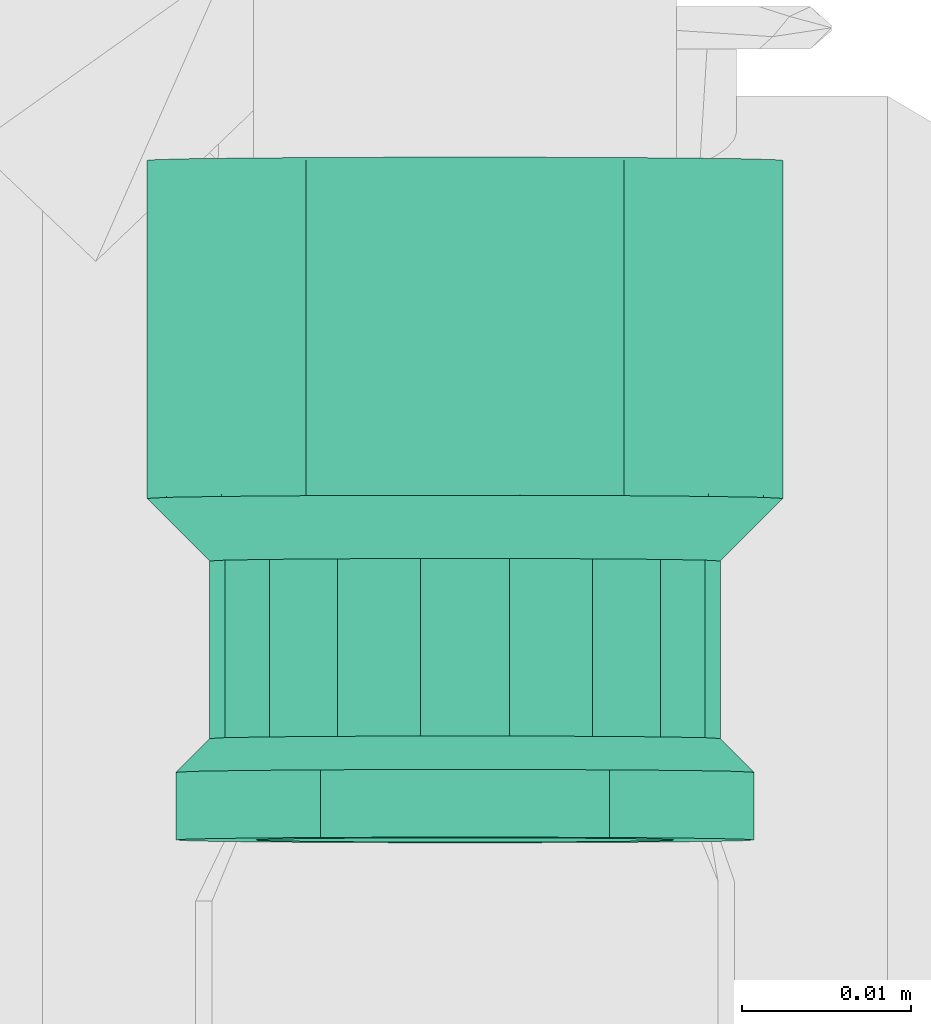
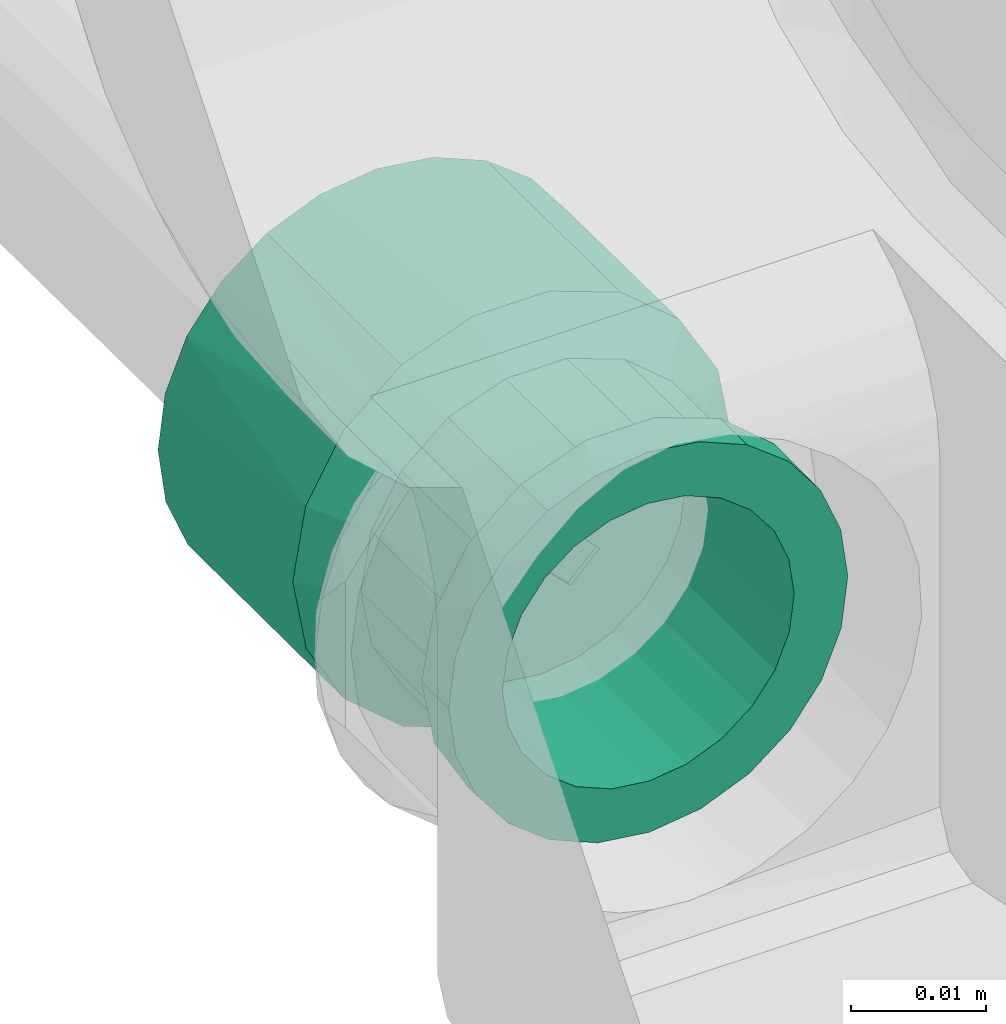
# One storey, part 384 of 589: 1 flow fitting.
"""IFC2X3 building model written with IfcOpenShell, lengths in millimetres."""

from ifc_helpers import new_model, entity, si_unit, converted_unit, derived_unit, direction, frame, origin, place, context, subcontext, project, spatial, faceted_brep, source, transform, mapped, material, type_object, type_shapes, element, save


model = new_model("IFC2X3")

# Units and contexts
model_context = context("Model", 3, precision=0.01, world=origin(), true_north=direction((6.123031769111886e-17, 1.0)))
body_context = subcontext(model_context, "Body", "Model", "MODEL_VIEW")
ifc_project = project(units=[si_unit("LENGTHUNIT", "METRE", prefix="MILLI"), si_unit("AREAUNIT", "SQUARE_METRE"), si_unit("VOLUMEUNIT", "CUBIC_METRE"), converted_unit("PLANEANGLEUNIT", "DEGREE", entity("IfcRatioMeasure", 0.017453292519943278), si_unit("PLANEANGLEUNIT", "RADIAN"), dimensions=[0, 0, 0, 0, 0, 0, 0]), si_unit("MASSUNIT", "GRAM", prefix="KILO"), derived_unit("MASSDENSITYUNIT", [(si_unit("MASSUNIT", "GRAM", prefix="KILO"), 1), (si_unit("LENGTHUNIT", "METRE"), -3)]), derived_unit("IONCONCENTRATIONUNIT", [(si_unit("MASSUNIT", "GRAM", prefix="KILO"), 1), (si_unit("LENGTHUNIT", "METRE"), -3)]), derived_unit("MOMENTOFINERTIAUNIT", [(si_unit("LENGTHUNIT", "METRE"), 4)]), si_unit("TIMEUNIT", "SECOND"), si_unit("FREQUENCYUNIT", "HERTZ"), si_unit("THERMODYNAMICTEMPERATUREUNIT", "DEGREE_CELSIUS"), derived_unit("THERMALTRANSMITTANCEUNIT", [(si_unit("MASSUNIT", "GRAM", prefix="KILO"), 1), (si_unit("THERMODYNAMICTEMPERATUREUNIT", "KELVIN"), -1), (si_unit("TIMEUNIT", "SECOND"), -3)]), derived_unit("THERMALCONDUCTANCEUNIT", [(si_unit("MASSUNIT", "GRAM", prefix="KILO"), 1), (si_unit("THERMODYNAMICTEMPERATUREUNIT", "KELVIN"), -1), (si_unit("TIMEUNIT", "SECOND"), -3), (si_unit("LENGTHUNIT", "METRE"), 1)]), derived_unit("VOLUMETRICFLOWRATEUNIT", [(si_unit("LENGTHUNIT", "METRE"), 3), (si_unit("TIMEUNIT", "SECOND"), -1)]), derived_unit("MASSFLOWRATEUNIT", [(si_unit("MASSUNIT", "GRAM", prefix="KILO"), 1), (si_unit("TIMEUNIT", "SECOND"), -1)]), derived_unit("ROTATIONALFREQUENCYUNIT", [(si_unit("TIMEUNIT", "SECOND"), -1)]), si_unit("ELECTRICCURRENTUNIT", "AMPERE"), si_unit("ELECTRICVOLTAGEUNIT", "VOLT"), si_unit("POWERUNIT", "WATT"), si_unit("FORCEUNIT", "NEWTON", prefix="KILO"), si_unit("ILLUMINANCEUNIT", "LUX"), si_unit("LUMINOUSFLUXUNIT", "LUMEN"), si_unit("LUMINOUSINTENSITYUNIT", "CANDELA"), derived_unit("USERDEFINED", [(si_unit("MASSUNIT", "GRAM", prefix="KILO"), -1), (si_unit("LENGTHUNIT", "METRE"), -2), (si_unit("TIMEUNIT", "SECOND"), 3), (si_unit("LUMINOUSFLUXUNIT", "LUMEN"), 1)]), derived_unit("USERDEFINED", [(si_unit("MASSUNIT", "GRAM", prefix="KILO"), 1), (si_unit("TIMEUNIT", "SECOND"), -3), (si_unit("LENGTHUNIT", "METRE"), 3), (si_unit("ELECTRICCURRENTUNIT", "AMPERE"), -2)]), derived_unit("SOUNDPOWERUNIT", [(si_unit("MASSUNIT", "GRAM", prefix="KILO"), 1), (si_unit("TIMEUNIT", "SECOND"), -3), (si_unit("LENGTHUNIT", "METRE"), 2)]), derived_unit("SOUNDPRESSUREUNIT", [(si_unit("MASSUNIT", "GRAM", prefix="KILO"), 1), (si_unit("LENGTHUNIT", "METRE"), -1), (si_unit("TIMEUNIT", "SECOND"), -2)]), derived_unit("LINEARVELOCITYUNIT", [(si_unit("LENGTHUNIT", "METRE"), 1), (si_unit("TIMEUNIT", "SECOND"), -1)]), si_unit("PRESSUREUNIT", "PASCAL"), derived_unit("USERDEFINED", [(si_unit("MASSUNIT", "GRAM", prefix="KILO"), 1), (si_unit("LENGTHUNIT", "METRE"), -2), (si_unit("TIMEUNIT", "SECOND"), -2)]), derived_unit("LINEARFORCEUNIT", [(si_unit("MASSUNIT", "GRAM", prefix="KILO"), 1), (si_unit("TIMEUNIT", "SECOND"), -2)]), derived_unit("PLANARFORCEUNIT", [(si_unit("MASSUNIT", "GRAM", prefix="KILO"), 1), (si_unit("LENGTHUNIT", "METRE"), -1), (si_unit("TIMEUNIT", "SECOND"), -2)]), derived_unit("SPECIFICHEATCAPACITYUNIT", [(si_unit("THERMODYNAMICTEMPERATUREUNIT", "KELVIN"), -1), (si_unit("LENGTHUNIT", "METRE"), 2), (si_unit("TIMEUNIT", "SECOND"), -2)]), derived_unit("HEATINGVALUEUNIT", [(si_unit("LENGTHUNIT", "METRE"), 2), (si_unit("TIMEUNIT", "SECOND"), -2)]), derived_unit("VAPORPERMEABILITYUNIT", [(si_unit("LENGTHUNIT", "METRE"), -1), (si_unit("TIMEUNIT", "SECOND"), 1)]), derived_unit("DYNAMICVISCOSITYUNIT", [(si_unit("MASSUNIT", "GRAM", prefix="KILO"), 1), (si_unit("TIMEUNIT", "SECOND"), -1), (si_unit("LENGTHUNIT", "METRE"), -1)]), derived_unit("THERMALEXPANSIONCOEFFICIENTUNIT", [(si_unit("THERMODYNAMICTEMPERATUREUNIT", "KELVIN"), -1)]), derived_unit("MODULUSOFELASTICITYUNIT", [(si_unit("MASSUNIT", "GRAM", prefix="KILO"), 1), (si_unit("LENGTHUNIT", "METRE"), -1), (si_unit("TIMEUNIT", "SECOND"), -2)]), derived_unit("ISOTHERMALMOISTURECAPACITYUNIT", [(si_unit("LENGTHUNIT", "METRE"), 3), (si_unit("MASSUNIT", "GRAM", prefix="KILO"), -1)]), derived_unit("MOISTUREDIFFUSIVITYUNIT", [(si_unit("TIMEUNIT", "SECOND"), -1), (si_unit("LENGTHUNIT", "METRE"), 2)])], contexts=[model_context])

# Site, building, storey
site_placement = place(None, origin())
site = spatial("IfcSite", under=ifc_project, at=site_placement, Name="Default", CompositionType="ELEMENT")
building_placement = place(site_placement, origin())
building = spatial("IfcBuilding", under=site, at=building_placement, CompositionType="ELEMENT")
storey_placement = place(building_placement, frame((0.0, 0.0, 100.0)))
storey = spatial("IfcBuildingStorey", under=building, at=storey_placement, Name="TÉRREO", CompositionType="ELEMENT", Elevation=100.0)

# Flow fitting
ifc_material = material(Name="PVC Azul")
pipe_fitting_type = type_object("IfcPipeFittingType", Name="Luva Soldavel com Bucha de Latao - Fortlev - AleBim:Standard", PredefinedType="NOTDEFINED", material=ifc_material)
shared_shape = source(origin(), body_context, "Body", "Brep", [
    faceted_brep([(0.0, -9.400000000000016, -16.28127759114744), (0.0, -13.2936074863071, -13.293607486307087), (0.0, -6.249999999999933, -10.825317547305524), (0.0, -3.235238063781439, -12.074072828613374), (0.0, -4.865798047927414, -18.15940553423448), (0.0, -8.838834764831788, -8.838834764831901), (0.0, -16.281277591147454, -9.399999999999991), (0.0, -10.82531754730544, -6.250000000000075), (0.0, -12.074072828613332, -3.2352380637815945), (0.0, -18.159405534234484, -4.865798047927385), (0.0, -12.5, 0.0), (0.0, -18.8, 0.0), (0.0, -12.074072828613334, 3.2352380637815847), (0.0, -18.159405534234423, 4.8657980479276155), (0.0, -10.825317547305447, 6.250000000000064), (0.0, -16.281277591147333, 9.400000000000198), (0.0, -8.838834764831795, 8.838834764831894), (0.0, -13.293607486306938, 13.29360748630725), (0.0, -6.249999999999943, 10.825317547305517), (0.0, -9.399999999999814, 16.281277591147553), (0.0, -3.23523806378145, 12.07407282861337), (0.0, -4.865798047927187, 18.159405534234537), (0.0, 0.0, 12.5), (0.0, 0.0, 18.8), (0.0, 3.2352380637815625, 12.074072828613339), (0.0, 4.865798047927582, 18.159405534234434), (0.0, 6.2500000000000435, 10.825317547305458), (0.0, 9.400000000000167, 16.28127759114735), (0.0, 8.838834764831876, 8.838834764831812), (0.0, 13.29360748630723, 13.293607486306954), (0.0, 10.825317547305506, 6.249999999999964), (0.0, 16.281277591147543, 9.399999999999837), (0.0, 18.159405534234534, 4.865798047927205), (0.0, 12.074072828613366, 3.2352380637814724), (0.0, 18.8, 0.0), (0.0, 12.5, 0.0), (0.0, 18.15940553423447, -4.865798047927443), (0.0, 12.074072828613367, -3.2352380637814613), (0.0, 16.281277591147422, -9.400000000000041), (0.0, 10.825317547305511, -6.249999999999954), (0.0, 13.293607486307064, -13.293607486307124), (0.0, 8.838834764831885, -8.838834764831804), (0.0, 9.399999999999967, -16.281277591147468), (0.0, 6.250000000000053, -10.825317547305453), (0.0, 4.86579804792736, -18.159405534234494), (0.0, 3.2352380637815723, -12.074072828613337), (0.0, 0.0, -18.8), (0.0, 0.0, -12.5), (20.0, 17.66604204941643, 6.4304710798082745), (20.0, 18.233021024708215, 3.2152355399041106), (20.0, 11.899800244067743, 14.183636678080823), (20.0, 14.400961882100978, 12.08520983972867), (20.0, 16.033501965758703, 9.257840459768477), (20.0, 6.330580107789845, 17.39840655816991), (20.0, 3.2625216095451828, 18.514749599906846), (20.0, 18.8, 0.0), (20.0, 9.398638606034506, 16.282063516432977), (20.0, -17.667654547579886, 6.4260394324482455), (20.0, -9.402722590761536, 16.279705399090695), (20.0, -6.334944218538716, 17.39681801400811), (20.0, -3.267165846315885, 18.513930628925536), (20.0, -14.403992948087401, 12.081597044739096), (20.0, -11.903357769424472, 14.180651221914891), (20.0, -18.8, 0.0), (20.0, -16.03582374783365, 9.253818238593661), (20.0, -0.0023221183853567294, 18.514340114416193), (20.0, -17.66765454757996, -6.426039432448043), (20.0, -11.903357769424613, -14.180651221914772), (20.0, -14.403992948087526, -12.081597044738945), (20.0, -16.035823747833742, -9.253818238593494), (20.0, -6.334944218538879, -17.39681801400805), (20.0, -3.2671658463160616, -18.513930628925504), (20.0, 18.233021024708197, -3.2152355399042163), (20.0, -9.402722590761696, -16.2797053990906), (20.0, 6.330580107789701, -17.398406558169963), (20.0, 3.2625216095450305, -18.514749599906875), (20.0, 9.398638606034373, -16.282063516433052), (20.0, 11.899800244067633, -14.183636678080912), (20.0, 17.66604204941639, -6.43047107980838), (20.0, 16.033501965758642, -9.257840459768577), (20.0, 14.400961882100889, -12.085209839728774), (20.0, -0.0023221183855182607, -18.51434011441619), (23.69999999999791, 14.19050976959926, 5.16134018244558), (23.699999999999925, 15.09999999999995, 0.0), (23.699999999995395, 5.088173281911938, 13.97297617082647), (23.699999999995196, 2.6241598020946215, 14.870231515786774), (23.699999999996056, 9.560675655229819, 11.38977837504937), (23.699999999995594, 7.552186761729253, 13.075720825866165), (23.699999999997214, 12.879837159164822, 7.432588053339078), (23.699999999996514, 11.569164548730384, 9.703835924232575), (23.699999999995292, 0.0018651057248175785, 14.870560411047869), (23.69999999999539, -2.620429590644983, 14.870889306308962), (23.699999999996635, -9.557818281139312, 11.392176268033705), (23.699999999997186, -11.566730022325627, 9.706737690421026), (23.699999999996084, -7.548906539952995, 13.077614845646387), (23.699999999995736, -5.084668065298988, 13.974252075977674), (23.699999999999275, -14.644607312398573, 2.582449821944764), (23.699999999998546, -14.189214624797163, 5.164899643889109), (23.700000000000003, -15.099999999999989, 0.0), (23.699999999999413, -14.732236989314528, 2.085517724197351), (23.699999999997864, -12.877972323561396, 7.4358186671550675), (23.699999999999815, -14.644607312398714, -2.582449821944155), (23.699999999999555, -14.18921462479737, -5.164899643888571), (23.699999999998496, -5.084668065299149, -13.97425207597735), (23.699999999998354, -2.620429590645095, -14.87088930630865), (23.69999999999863, -7.548906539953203, -13.077614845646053), (23.69999999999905, -11.566730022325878, -9.706737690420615), (23.69999999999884, -9.557818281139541, -11.392176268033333), (23.6999999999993, 14.190509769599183, -5.1613401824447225), (23.699999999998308, 0.0018651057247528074, -14.870560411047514), (23.699999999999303, -12.877972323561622, -7.435818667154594), (23.699999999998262, 2.6241598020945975, -14.870231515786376), (23.699999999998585, 9.56067565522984, -11.389778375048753), (23.699999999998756, 11.569164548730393, -9.703835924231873), (23.699999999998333, 5.088173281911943, -13.972976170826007), (23.69999999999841, 7.552186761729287, -13.075720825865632), (23.69999999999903, 12.879837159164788, -7.432588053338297), (34.20000000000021, -14.189214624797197, -5.164899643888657), (34.20000000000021, -14.73223698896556, -2.085517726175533), (34.20000000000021, -15.099999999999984, 0.0), (34.20000000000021, -9.55781828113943, -11.392176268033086), (34.20000000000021, -11.566730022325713, -9.706737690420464), (34.20000000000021, -7.548906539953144, -13.077614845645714), (34.20000000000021, -12.877972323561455, -7.43581866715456), (34.20000000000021, -2.620429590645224, -14.870889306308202), (34.20000000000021, -5.084668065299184, -13.974252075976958), (34.20000000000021, 2.6241598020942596, -14.870231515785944), (34.20000000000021, 0.0018651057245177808, -14.870560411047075), (34.20000000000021, 5.0881732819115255, -13.97297617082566), (34.20000000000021, 7.552186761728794, -13.075720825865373), (34.20000000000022, 11.56916454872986, -9.70383592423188), (34.200000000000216, 9.560675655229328, -11.389778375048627), (34.20000000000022, 12.879837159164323, -7.432588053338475), (34.20000000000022, 14.19050976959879, -5.161340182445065), (34.20000000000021, 15.100000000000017, 0.0), (34.199999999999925, 14.190509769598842, 5.161340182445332), (34.19999999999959, 7.552186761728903, 13.0757208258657), (34.199999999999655, 9.56067565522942, 11.389778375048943), (34.19999999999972, 11.569164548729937, 9.703835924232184), (34.199999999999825, 12.879837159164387, 7.432588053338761), (34.19999999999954, 2.624159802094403, 14.87023151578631), (34.19999999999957, 5.08817328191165, 13.972976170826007), (34.19999999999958, -2.6204295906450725, 14.870889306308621), (34.19999999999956, 0.0018651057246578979, 14.870560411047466), (34.199999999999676, -7.548906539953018, 13.077614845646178), (34.199999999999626, -5.084668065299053, 13.974252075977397), (34.20000000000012, -14.644607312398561, 2.582449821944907), (34.20000000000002, -14.18921462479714, 5.164899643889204), (34.199999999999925, -12.877972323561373, 7.435818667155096), (34.19999999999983, -11.566730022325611, 9.706737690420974), (34.199999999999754, -9.557818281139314, 11.392176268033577), (36.20000000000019, -17.099999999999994, 0.0), (36.20000000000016, -16.698266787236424, 2.2781566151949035), (36.199999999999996, -16.584290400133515, 2.9244961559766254), (36.200000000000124, -16.068580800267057, 5.848992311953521), (36.20000000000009, -14.583664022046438, 8.420695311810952), (36.20000000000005, -13.098747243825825, 10.992398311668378), (36.200000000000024, -10.823754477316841, 12.90107378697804), (36.2, -8.548761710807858, 14.809749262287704), (36.19999999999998, -5.758134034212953, 15.825146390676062), (36.19999999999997, -2.9675063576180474, 16.840543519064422), (36.19999999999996, 0.0021121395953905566, 16.84017106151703), (36.19999999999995, 2.9717306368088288, 16.839798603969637), (36.199999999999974, 8.55247639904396, 14.807604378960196), (36.19999999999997, 5.762103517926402, 15.823701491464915), (36.20000000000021, 17.100000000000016, 0.0), (36.2000000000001, 16.070047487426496, 5.844961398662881), (36.200000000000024, 13.101504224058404, 10.989112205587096), (36.20000000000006, 14.585775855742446, 8.417036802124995), (36.2, 10.826990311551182, 12.898358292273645), (36.20000000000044, 16.07004748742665, -5.844961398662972), (36.200000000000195, 0.0021121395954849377, -16.84017106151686), (36.20000000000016, -2.9675063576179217, -16.84054351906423), (36.20000000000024, 2.9717306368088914, -16.839798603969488), (36.200000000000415, 14.58577585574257, -8.417036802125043), (36.20000000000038, 13.10150422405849, -10.989112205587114), (36.20000000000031, 8.552476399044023, -14.807604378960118), (36.20000000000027, 5.7621035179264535, -15.823701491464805), (36.20000000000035, 10.826990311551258, -12.898358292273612), (36.20000000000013, -5.758134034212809, -15.825146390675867), (36.2000000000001, -8.548761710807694, -14.809749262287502), (36.200000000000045, -16.068580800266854, -5.848992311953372), (36.200000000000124, -16.58429040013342, -2.924496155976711), (36.20000000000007, -13.098747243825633, -10.992398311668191), (36.20000000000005, -14.583664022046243, -8.420695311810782), (36.20000000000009, -10.823754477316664, -12.901073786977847), (40.200000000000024, 8.550000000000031, -14.809034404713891), (40.200000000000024, 12.091525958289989, -12.091525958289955), (40.200000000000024, 6.2500000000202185, -10.825317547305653), (40.200000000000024, 3.2352380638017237, -12.074072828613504), (40.200000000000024, 4.425805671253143, -16.51733162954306), (40.200000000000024, 8.838834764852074, -8.838834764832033), (40.200000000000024, 14.809034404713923, -8.549999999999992), (40.200000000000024, 10.825317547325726, -6.250000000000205), (40.200000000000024, 12.074072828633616, -3.235238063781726), (40.200000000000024, 16.517331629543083, -4.4258056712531), (40.200000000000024, 12.500000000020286, 0.0), (40.200000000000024, 17.100000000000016, 0.0), (40.200000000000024, 12.074072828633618, 3.2352380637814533), (40.200000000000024, 16.51733162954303, 4.42580567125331), (40.200000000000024, 10.825317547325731, 6.2499999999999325), (40.200000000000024, 14.809034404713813, 8.550000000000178), (40.200000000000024, 8.83883476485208, 8.838834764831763), (40.200000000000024, 12.091525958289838, 12.091525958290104), (40.200000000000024, 6.250000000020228, 10.825317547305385), (40.200000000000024, 8.549999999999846, 14.809034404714), (40.200000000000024, 3.235238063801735, 12.074072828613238), (40.200000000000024, 4.425805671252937, 16.51733162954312), (40.200000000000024, 0.0, 12.49999999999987), (40.200000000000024, 0.0, 17.1), (40.200000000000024, -3.235238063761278, 12.07407282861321), (40.200000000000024, -4.425805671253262, 16.51733162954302), (40.200000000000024, -6.249999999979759, 10.825317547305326), (40.200000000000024, -8.550000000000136, 14.809034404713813), (40.200000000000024, -8.838834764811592, 8.838834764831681), (40.200000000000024, -12.091525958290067, 12.091525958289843), (40.200000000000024, -10.825317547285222, 6.249999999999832), (40.200000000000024, -14.809034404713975, 8.549999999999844), (40.200000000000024, -16.517331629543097, 4.425805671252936), (40.200000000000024, -12.07407282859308, 3.2352380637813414), (40.200000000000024, -17.099999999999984, 0.0), (40.200000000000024, -12.499999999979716, 0.0), (40.200000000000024, -16.517331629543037, -4.425805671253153), (40.200000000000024, -12.074072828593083, -3.2352380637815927), (40.200000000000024, -14.809034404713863, -8.550000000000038), (40.200000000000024, -10.825317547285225, -6.250000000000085), (40.200000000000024, -12.09152595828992, -12.09152595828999), (40.200000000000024, -8.838834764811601, -8.838834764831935), (40.200000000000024, -8.549999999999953, -14.80903440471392), (40.200000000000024, -6.249999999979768, -10.825317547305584), (40.200000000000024, -4.425805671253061, -16.517331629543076), (40.200000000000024, -3.2352380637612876, -12.074072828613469), (40.200000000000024, 0.0, -17.1), (40.200000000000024, 0.0, -12.500000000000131), (24.0, 3.23523806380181, -12.074072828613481), (24.0, 6.250000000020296, -10.825317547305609), (24.0, 8.838834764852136, -8.83883476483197), (24.0, 10.825317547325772, -6.250000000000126), (24.0, 12.07407282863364, -3.2352380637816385), (24.0, 12.500000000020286, 0.0), (24.0, 12.074072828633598, 3.235238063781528), (24.0, 10.825317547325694, 6.249999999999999), (24.0, 8.838834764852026, 8.838834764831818), (24.0, 6.250000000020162, 10.825317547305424), (24.0, 3.2352380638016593, 12.074072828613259), (24.0, 0.0, 12.49999999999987), (24.0, -3.235238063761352, 12.07407282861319), (24.0, -6.249999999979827, 10.82531754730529), (24.0, -8.83883476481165, 8.83883476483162), (24.0, -10.82531754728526, 6.24999999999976), (24.0, -12.074072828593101, 3.235238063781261), (24.0, -12.499999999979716, 0.0), (24.0, -12.07407282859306, -3.235238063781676), (24.0, -10.825317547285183, -6.250000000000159), (24.0, -8.838834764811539, -8.838834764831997), (24.0, -6.2499999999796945, -10.825317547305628), (24.0, -3.2352380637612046, -12.074072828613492), (24.0, 0.0, -12.500000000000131), (16.200000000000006, -12.074072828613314, 3.2352380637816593), (16.200000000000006, -12.5, 0.0), (16.200000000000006, -10.825317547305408, 6.250000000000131), (16.200000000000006, -8.838834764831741, 8.83883476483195), (16.200000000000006, -6.2499999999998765, 10.825317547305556), (16.200000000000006, -3.2352380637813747, 12.07407282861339), (16.200000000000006, 0.0, 12.5), (16.200000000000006, 6.250000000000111, 10.825317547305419), (16.200000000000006, 3.235238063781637, 12.074072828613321), (16.200000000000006, 8.838834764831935, 8.838834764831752), (16.200000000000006, 10.825317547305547, 6.249999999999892), (16.200000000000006, 12.074072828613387, 3.235238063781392), (16.200000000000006, 12.5, 0.0), (16.200000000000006, 12.074072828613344, -3.2352380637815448), (16.200000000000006, 10.825317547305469, -6.2500000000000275), (16.200000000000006, 8.838834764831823, -8.838834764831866), (16.200000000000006, 6.24999999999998, -10.825317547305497), (16.200000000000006, 3.2352380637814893, -12.07407282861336), (16.200000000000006, 0.0, -12.5), (16.200000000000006, -6.250000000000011, -10.82531754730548), (16.200000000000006, -3.2352380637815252, -12.07407282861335), (16.200000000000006, -8.83883476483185, -8.838834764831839), (16.200000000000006, -10.825317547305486, -6.249999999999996), (16.200000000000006, -12.074072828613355, -3.2352380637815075)], [[[0, 1, 2]], [[0, 2, 3]], [[3, 4, 0]], [[2, 1, 5]], [[6, 5, 1]], [[7, 5, 6]], [[8, 7, 6]], [[8, 6, 9]], [[8, 9, 10]], [[10, 9, 11]], [[12, 10, 11]], [[12, 11, 13]], [[14, 12, 13]], [[14, 13, 15]], [[16, 14, 15]], [[15, 17, 16]], [[17, 18, 16]], [[18, 17, 19]], [[18, 19, 20]], [[21, 20, 19]], [[20, 21, 22]], [[22, 21, 23]], [[23, 24, 22]], [[24, 23, 25]], [[24, 25, 26]], [[27, 26, 25]], [[27, 28, 26]], [[27, 29, 28]], [[30, 28, 29]], [[31, 30, 29]], [[32, 30, 31]], [[33, 30, 32]], [[33, 32, 34]], [[34, 35, 33]], [[36, 35, 34]], [[36, 37, 35]], [[37, 36, 38]], [[39, 37, 38]], [[39, 38, 40]], [[39, 40, 41]], [[40, 42, 41]], [[41, 42, 43]], [[43, 42, 44]], [[44, 45, 43]], [[46, 45, 44]], [[4, 47, 46]], [[45, 46, 47]], [[4, 3, 47]], [[32, 48, 49]], [[50, 51, 29]], [[52, 48, 31, 51]], [[53, 25, 54]], [[48, 32, 31]], [[34, 49, 55]], [[25, 53, 27]], [[27, 56, 50]], [[29, 51, 31]], [[13, 57, 15]], [[19, 58, 59]], [[53, 56, 27]], [[21, 19, 59]], [[54, 25, 23]], [[29, 27, 50]], [[59, 60, 21]], [[61, 62, 17]], [[63, 57, 13]], [[32, 49, 34]], [[64, 61, 15, 57]], [[11, 63, 13]], [[17, 62, 19]], [[65, 54, 23, 60]], [[61, 17, 15]], [[19, 62, 58]], [[21, 60, 23]], [[66, 63, 9]], [[67, 68, 1]], [[69, 66, 6, 68]], [[70, 4, 71]], [[66, 9, 6]], [[63, 11, 9]], [[1, 68, 6]], [[34, 55, 72]], [[70, 73, 0]], [[71, 4, 46]], [[74, 75, 44]], [[42, 76, 74]], [[42, 77, 76]], [[36, 78, 38]], [[38, 78, 79, 80]], [[36, 34, 72]], [[77, 40, 80]], [[72, 78, 36]], [[0, 73, 67]], [[81, 71, 46, 75]], [[1, 0, 67]], [[4, 70, 0]], [[80, 40, 38]], [[40, 77, 42]], [[44, 75, 46]], [[44, 42, 74]], [[82, 83, 49]], [[84, 53, 85]], [[86, 50, 87]], [[88, 52, 89]], [[53, 54, 85]], [[50, 56, 87]], [[49, 48, 82]], [[52, 51, 89]], [[87, 56, 84]], [[83, 55, 49]], [[88, 48, 52]], [[51, 50, 86]], [[85, 54, 90]], [[82, 48, 88]], [[56, 53, 84]], [[89, 51, 86]], [[65, 60, 91]], [[92, 62, 93]], [[59, 58, 94]], [[90, 65, 91]], [[95, 59, 94]], [[96, 97, 57]], [[63, 98, 99, 96]], [[64, 57, 97]], [[100, 64, 97]], [[62, 61, 93]], [[93, 61, 100]], [[59, 95, 60]], [[92, 58, 62]], [[61, 64, 100]], [[63, 96, 57]], [[94, 58, 92]], [[54, 65, 90]], [[91, 60, 95]], [[66, 101, 63]], [[98, 63, 101]], [[66, 102, 101]], [[103, 71, 104]], [[105, 73, 70]], [[106, 68, 67]], [[107, 73, 105]], [[102, 66, 69]], [[108, 78, 72]], [[70, 71, 103]], [[109, 104, 81]], [[69, 68, 110]], [[81, 75, 109]], [[110, 102, 69]], [[67, 73, 107]], [[107, 106, 67]], [[75, 111, 109]], [[112, 80, 113]], [[111, 75, 74]], [[110, 68, 106]], [[81, 104, 71]], [[114, 76, 115]], [[103, 105, 70]], [[113, 80, 79]], [[116, 78, 108]], [[115, 76, 77]], [[116, 113, 79]], [[79, 78, 116]], [[55, 83, 72]], [[77, 80, 112]], [[108, 72, 83]], [[112, 115, 77]], [[74, 76, 114]], [[114, 111, 74]], [[117, 118, 119, 98, 101, 102]], [[120, 121, 106, 107, 105, 122]], [[121, 123, 117, 102, 110, 106]], [[124, 125, 122, 105, 103, 104]], [[126, 127, 124, 104, 109, 111]], [[128, 126, 111, 114, 115, 129]], [[112, 113, 130, 131, 129, 115]], [[132, 130, 113, 116, 108, 133]], [[108, 83, 134, 133]], [[135, 134, 83, 82]], [[136, 137, 138, 89, 86, 87]], [[138, 139, 135, 82, 88, 89]], [[140, 141, 136, 87, 84, 85]], [[90, 91, 142, 143, 140, 85]], [[95, 94, 144, 145, 142, 91]], [[99, 98, 119, 146, 147, 97, 96]], [[148, 149, 93, 100, 97, 147]], [[92, 93, 149, 150, 144, 94]], [[147, 146, 119, 151, 152, 153, 154]], [[148, 147, 154, 155, 156, 149]], [[150, 149, 156, 157, 158, 144]], [[158, 159, 160, 142, 145, 144]], [[161, 162, 140, 143, 142, 160]], [[163, 136, 141, 140, 162, 164]], [[165, 134, 135, 166]], [[167, 168, 166, 135, 139, 138]], [[163, 169, 167, 138, 137, 136]], [[170, 133, 134, 165]], [[171, 172, 124, 127, 126, 173]], [[132, 133, 170, 174, 175, 130]], [[126, 128, 129, 176, 177, 173]], [[175, 178, 176, 129, 131, 130]], [[125, 124, 172, 179, 180, 122]], [[151, 119, 118, 117, 181, 182]], [[183, 184, 181, 117, 123, 121]], [[180, 185, 183, 121, 120, 122]], [[186, 187, 188]], [[186, 188, 189]], [[189, 190, 186]], [[188, 187, 191]], [[192, 191, 187]], [[193, 191, 192]], [[194, 193, 192]], [[194, 192, 195]], [[194, 195, 196]], [[196, 195, 197]], [[198, 196, 197]], [[198, 197, 199]], [[200, 198, 199]], [[200, 199, 201]], [[202, 200, 201]], [[201, 203, 202]], [[203, 204, 202]], [[204, 203, 205]], [[204, 205, 206]], [[207, 206, 205]], [[206, 207, 208]], [[208, 207, 209]], [[209, 210, 208]], [[210, 209, 211]], [[210, 211, 212]], [[213, 212, 211]], [[213, 214, 212]], [[213, 215, 214]], [[216, 214, 215]], [[217, 216, 215]], [[218, 216, 217]], [[219, 216, 218]], [[219, 218, 220]], [[220, 221, 219]], [[222, 221, 220]], [[222, 223, 221]], [[223, 222, 224]], [[225, 223, 224]], [[225, 224, 226]], [[225, 226, 227]], [[226, 228, 227]], [[227, 228, 229]], [[229, 228, 230]], [[230, 231, 229]], [[232, 231, 230]], [[190, 233, 232]], [[231, 232, 233]], [[190, 189, 233]], [[218, 154, 153]], [[157, 156, 215]], [[155, 154, 217, 156]], [[159, 211, 160]], [[154, 218, 217]], [[220, 153, 152, 151]], [[213, 158, 157]], [[215, 213, 157]], [[215, 156, 217]], [[205, 163, 164]], [[207, 205, 164]], [[159, 158, 213]], [[211, 159, 213]], [[160, 211, 209]], [[218, 153, 220]], [[164, 162, 207]], [[167, 169, 203]], [[165, 166, 199]], [[168, 167, 201, 166]], [[197, 165, 199]], [[203, 169, 205]], [[161, 160, 209, 162]], [[207, 162, 209]], [[167, 203, 201]], [[205, 169, 163]], [[199, 166, 201]], [[170, 165, 195]], [[178, 175, 187]], [[174, 170, 192, 175]], [[177, 190, 173]], [[170, 195, 192]], [[165, 197, 195]], [[190, 177, 186]], [[186, 176, 178]], [[187, 175, 192]], [[222, 220, 182]], [[228, 180, 179]], [[177, 176, 186]], [[230, 228, 179]], [[173, 190, 232]], [[187, 186, 178]], [[179, 172, 230]], [[183, 185, 226]], [[182, 181, 222]], [[184, 183, 224, 181]], [[222, 181, 224]], [[226, 185, 228]], [[171, 173, 232, 172]], [[230, 172, 232]], [[183, 226, 224]], [[228, 185, 180]], [[220, 151, 182]], [[234, 235, 236, 237, 238, 239, 240, 241, 242, 243, 244, 245, 246, 247, 248, 249, 250, 251, 252, 253, 254, 255, 256, 257]], [[250, 219, 221, 251]], [[12, 258, 259, 10]], [[249, 216, 219, 250]], [[14, 260, 258, 12]], [[214, 248, 247, 212]], [[261, 16, 18, 262]], [[249, 248, 214, 216]], [[261, 260, 14, 16]], [[212, 247, 246, 210]], [[262, 18, 20, 263]], [[210, 246, 245, 208]], [[20, 22, 264, 263]], [[243, 204, 206, 244]], [[26, 265, 266, 24]], [[242, 202, 204, 243]], [[28, 267, 265, 26]], [[200, 241, 240, 198]], [[268, 30, 33, 269]], [[242, 241, 200, 202]], [[268, 267, 28, 30]], [[198, 240, 239, 196]], [[269, 33, 35, 270]], [[206, 208, 245, 244]], [[24, 266, 264, 22]], [[238, 194, 196, 239]], [[37, 271, 270, 35]], [[237, 193, 194, 238]], [[39, 272, 271, 37]], [[191, 236, 235, 188]], [[273, 41, 43, 274]], [[237, 236, 191, 193]], [[273, 272, 39, 41]], [[188, 235, 234, 189]], [[274, 43, 45, 275]], [[189, 234, 257, 233]], [[45, 47, 276, 275]], [[255, 229, 231, 256]], [[2, 277, 278, 3]], [[254, 227, 229, 255]], [[5, 279, 277, 2]], [[225, 253, 252, 223]], [[280, 7, 8, 281]], [[254, 253, 225, 227]], [[280, 279, 5, 7]], [[223, 252, 251, 221]], [[281, 8, 10, 259]], [[231, 233, 257, 256]], [[3, 278, 276, 47]], [[278, 277, 279, 280, 281, 259, 258, 260, 261, 262, 263, 264, 266, 265, 267, 268, 269, 270, 271, 272, 273, 274, 275, 276]]]),
])
type_shapes(pipe_fitting_type, [shared_shape])
flow_fitting_placement = place(storey_placement, frame((384.8399224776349, -5991.765179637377, 2579.037588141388), z_axis=(0.0, 0.009999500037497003, 0.9999500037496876), x_axis=(0.0, -0.9999500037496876, 0.009999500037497)))
element("IfcFlowFitting", 1, at=flow_fitting_placement, inside=storey, type_object=pipe_fitting_type, material=ifc_material, Name="Luva Soldavel com Bucha de Latao - Fortlev - AleBim:Standard", ObjectType="Luva Soldavel com Bucha de Latao - Fortlev - AleBim:Standard", context=body_context, shape_type="MappedRepresentation", body=[
    mapped(shared_shape, transform((0.0, 0.0, 0.0), scale=1.0)),
])

save(model, "model.ifc")
